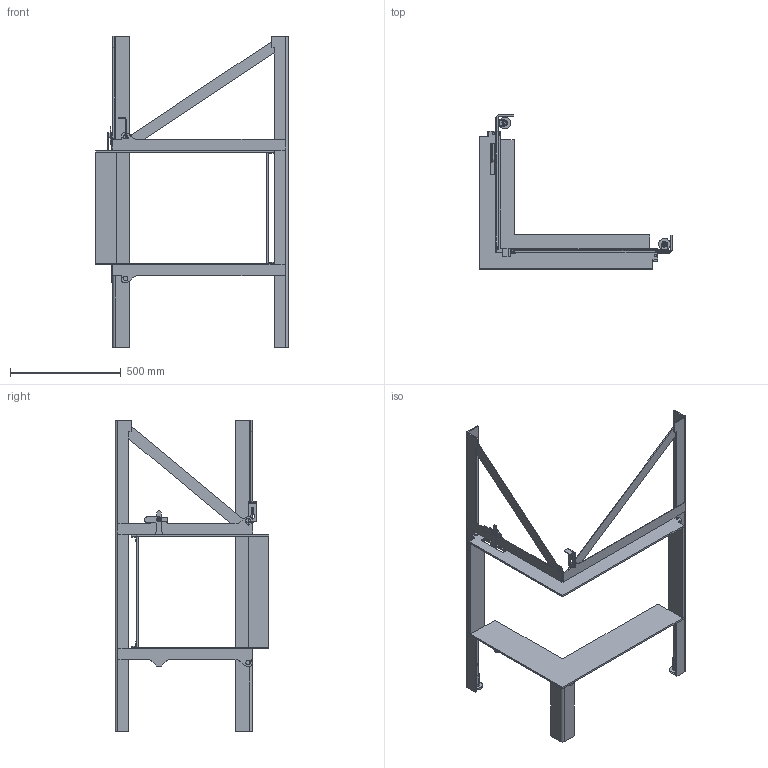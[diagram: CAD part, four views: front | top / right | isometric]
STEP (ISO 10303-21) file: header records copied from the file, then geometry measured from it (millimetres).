
FILE_DESCRIPTION(/* description */ (''),/* implementation_level */ '2;1');
FILE_NAME(/* name */ 'C:\Users\jku\Desktop\Export\RII 50x68x50 Einbaurahmen Links freistehend CAD Planung defriten 200109.stp',/* time_stamp */ '2020-01-09T07:50:40+01:00',/* author */ ('JKU'),/* organization */ (''),/* preprocessor_version */ 'ST-DEVELOPER v17.2',/* originating_system */ 'Autodesk Inventor 2019',/* authorisation */ '');
FILE_SCHEMA (('AUTOMOTIVE_DESIGN { 1 0 10303 214 3 1 1 }'));
Length unit declared in the file: millimetre
Products named in the file (1): 2020-00052
Bounding box: 866.4 x 693.5 x 1406 mm (x, y, z)
Volume: 6933084.2 mm3; surface area: 2363725.5 mm2
Topology: 35 solids, 35 shells, 719 faces, 1872 edges, 1231 vertices
Faces by surface type: plane 391, cylinder 276, cone 52
Full cylindrical faces by diameter (mm): 10 x1, 10.21 x2, 16 x4, 20 x2, 24 x3, 25 x2, 30 x3
Entity records: 22730 total; most frequent: CARTESIAN_POINT 4315, DIRECTION 3803, ORIENTED_EDGE 3744, EDGE_CURVE 1872, AXIS2_PLACEMENT_3D 1331, VERTEX_POINT 1231, LINE 1141, VECTOR 1141
